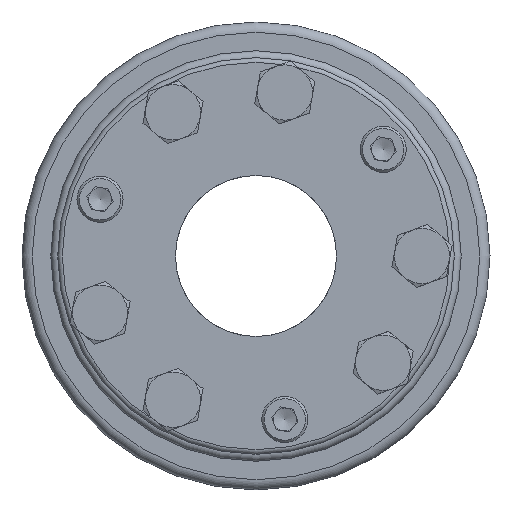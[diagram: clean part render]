
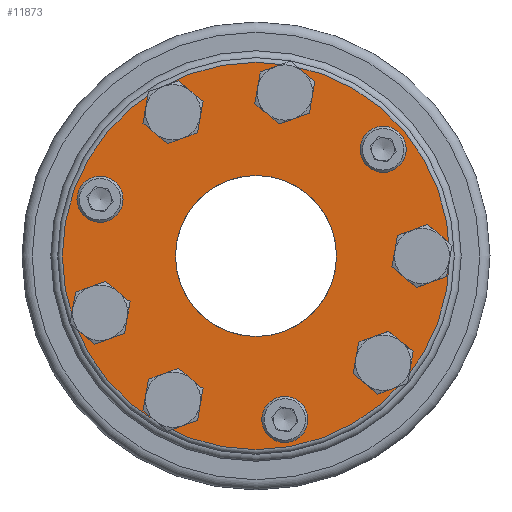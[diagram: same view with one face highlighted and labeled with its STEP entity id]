
A CAD part, left-side view. The second image highlights one B-rep face of the part: STEP entity #11873.
In plain terms, the highlighted planar face has unit normal (-1, 0, 0).
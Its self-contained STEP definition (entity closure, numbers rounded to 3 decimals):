
#1434=ORIENTED_EDGE('',*,*,#3456,.F.);
#1435=ORIENTED_EDGE('',*,*,#3457,.F.);
#1436=ORIENTED_EDGE('',*,*,#3458,.F.);
#1437=ORIENTED_EDGE('',*,*,#3459,.F.);
#1438=ORIENTED_EDGE('',*,*,#3460,.F.);
#1439=ORIENTED_EDGE('',*,*,#3461,.F.);
#1440=ORIENTED_EDGE('',*,*,#3462,.T.);
#1441=ORIENTED_EDGE('',*,*,#3463,.F.);
#1442=ORIENTED_EDGE('',*,*,#3464,.F.);
#1443=ORIENTED_EDGE('',*,*,#3465,.F.);
#1444=ORIENTED_EDGE('',*,*,#3466,.F.);
#3456=EDGE_CURVE('',#4476,#4476,#5242,.T.);
#3457=EDGE_CURVE('',#4477,#4477,#5243,.T.);
#3458=EDGE_CURVE('',#4478,#4478,#5244,.T.);
#3459=EDGE_CURVE('',#4479,#4479,#5245,.T.);
#3460=EDGE_CURVE('',#4480,#4480,#5246,.T.);
#3461=EDGE_CURVE('',#4481,#4481,#5247,.T.);
#3462=EDGE_CURVE('',#4482,#4482,#5248,.T.);
#3463=EDGE_CURVE('',#4483,#4483,#5249,.T.);
#3464=EDGE_CURVE('',#4484,#4484,#5250,.T.);
#3465=EDGE_CURVE('',#4485,#4485,#5251,.T.);
#3466=EDGE_CURVE('',#4486,#4486,#5252,.T.);
#4476=VERTEX_POINT('',#15754);
#4477=VERTEX_POINT('',#15756);
#4478=VERTEX_POINT('',#15758);
#4479=VERTEX_POINT('',#15760);
#4480=VERTEX_POINT('',#15762);
#4481=VERTEX_POINT('',#15764);
#4482=VERTEX_POINT('',#15766);
#4483=VERTEX_POINT('',#15768);
#4484=VERTEX_POINT('',#15770);
#4485=VERTEX_POINT('',#15772);
#4486=VERTEX_POINT('',#15774);
#5242=CIRCLE('',#12505,10.);
#5243=CIRCLE('',#12506,10.);
#5244=CIRCLE('',#12507,10.);
#5245=CIRCLE('',#12508,11.25);
#5246=CIRCLE('',#12509,11.25);
#5247=CIRCLE('',#12510,11.25);
#5248=CIRCLE('',#12511,84.);
#5249=CIRCLE('',#12512,34.925);
#5250=CIRCLE('',#12513,11.25);
#5251=CIRCLE('',#12514,11.25);
#5252=CIRCLE('',#12515,11.25);
#5620=EDGE_LOOP('',(#1434));
#5621=EDGE_LOOP('',(#1435));
#5622=EDGE_LOOP('',(#1436));
#5623=EDGE_LOOP('',(#1437));
#5624=EDGE_LOOP('',(#1438));
#5625=EDGE_LOOP('',(#1439));
#5626=EDGE_LOOP('',(#1440));
#5627=EDGE_LOOP('',(#1441));
#5628=EDGE_LOOP('',(#1442));
#5629=EDGE_LOOP('',(#1443));
#5630=EDGE_LOOP('',(#1444));
#6544=FACE_BOUND('',#5620,.T.);
#6545=FACE_BOUND('',#5621,.T.);
#6546=FACE_BOUND('',#5622,.T.);
#6547=FACE_BOUND('',#5623,.T.);
#6548=FACE_BOUND('',#5624,.T.);
#6549=FACE_BOUND('',#5625,.T.);
#6550=FACE_BOUND('',#5626,.T.);
#6551=FACE_BOUND('',#5627,.T.);
#6552=FACE_BOUND('',#5628,.T.);
#6553=FACE_BOUND('',#5629,.T.);
#6554=FACE_BOUND('',#5630,.T.);
#7456=PLANE('',#12504);
#11873=ADVANCED_FACE('',(#6544,#6545,#6546,#6547,#6548,#6549,#6550,#6551,
#6552,#6553,#6554),#7456,.T.);
#12504=AXIS2_PLACEMENT_3D('',#15752,#13505,#13506);
#12505=AXIS2_PLACEMENT_3D('',#15753,#13507,#13508);
#12506=AXIS2_PLACEMENT_3D('',#15755,#13509,#13510);
#12507=AXIS2_PLACEMENT_3D('',#15757,#13511,#13512);
#12508=AXIS2_PLACEMENT_3D('',#15759,#13513,#13514);
#12509=AXIS2_PLACEMENT_3D('',#15761,#13515,#13516);
#12510=AXIS2_PLACEMENT_3D('',#15763,#13517,#13518);
#12511=AXIS2_PLACEMENT_3D('',#15765,#13519,#13520);
#12512=AXIS2_PLACEMENT_3D('',#15767,#13521,#13522);
#12513=AXIS2_PLACEMENT_3D('',#15769,#13523,#13524);
#12514=AXIS2_PLACEMENT_3D('',#15771,#13525,#13526);
#12515=AXIS2_PLACEMENT_3D('',#15773,#13527,#13528);
#13505=DIRECTION('',(-1.,0.,0.));
#13506=DIRECTION('',(0.,0.94,-0.342));
#13507=DIRECTION('',(-1.,0.,0.));
#13508=DIRECTION('',(0.,0.94,-0.342));
#13509=DIRECTION('',(-1.,0.,0.));
#13510=DIRECTION('',(0.,0.94,-0.342));
#13511=DIRECTION('',(-1.,0.,0.));
#13512=DIRECTION('',(0.,0.94,-0.342));
#13513=DIRECTION('',(-1.,0.,0.));
#13514=DIRECTION('',(0.,-0.94,0.342));
#13515=DIRECTION('',(-1.,0.,0.));
#13516=DIRECTION('',(0.,-0.94,0.342));
#13517=DIRECTION('',(-1.,0.,0.));
#13518=DIRECTION('',(0.,-0.94,0.342));
#13519=DIRECTION('',(-1.,0.,0.));
#13520=DIRECTION('',(0.,0.94,-0.342));
#13521=DIRECTION('',(-1.,0.,0.));
#13522=DIRECTION('',(0.,0.94,-0.342));
#13523=DIRECTION('',(-1.,0.,0.));
#13524=DIRECTION('',(0.,-0.94,0.342));
#13525=DIRECTION('',(-1.,0.,0.));
#13526=DIRECTION('',(0.,-0.94,0.342));
#13527=DIRECTION('',(-1.,0.,0.));
#13528=DIRECTION('',(0.,-0.94,0.342));
#15752=CARTESIAN_POINT('',(-132.2,32.819,-11.945));
#15753=CARTESIAN_POINT('',(-132.2,-12.503,-70.906));
#15754=CARTESIAN_POINT('',(-132.2,-3.106,-74.326));
#15755=CARTESIAN_POINT('',(-132.2,-55.155,46.281));
#15756=CARTESIAN_POINT('',(-132.2,-45.758,42.861));
#15757=CARTESIAN_POINT('',(-132.2,67.658,24.625));
#15758=CARTESIAN_POINT('',(-132.2,77.055,21.205));
#15759=CARTESIAN_POINT('',(-132.2,36.,62.354));
#15760=CARTESIAN_POINT('',(-132.2,25.428,66.202));
#15761=CARTESIAN_POINT('',(-132.2,36.,-62.354));
#15762=CARTESIAN_POINT('',(-132.2,25.428,-58.506));
#15763=CARTESIAN_POINT('',(-132.2,-72.,0.));
#15764=CARTESIAN_POINT('',(-132.2,-82.572,3.848));
#15765=CARTESIAN_POINT('',(-132.2,0.,0.));
#15766=CARTESIAN_POINT('',(-132.2,78.934,-28.73));
#15767=CARTESIAN_POINT('',(-132.2,0.,0.));
#15768=CARTESIAN_POINT('',(-132.2,32.819,-11.945));
#15769=CARTESIAN_POINT('',(-132.2,-55.155,-46.281));
#15770=CARTESIAN_POINT('',(-132.2,-65.727,-42.433));
#15771=CARTESIAN_POINT('',(-132.2,67.658,-24.625));
#15772=CARTESIAN_POINT('',(-132.2,57.086,-20.778));
#15773=CARTESIAN_POINT('',(-132.2,-12.503,70.906));
#15774=CARTESIAN_POINT('',(-132.2,-23.074,74.754));
